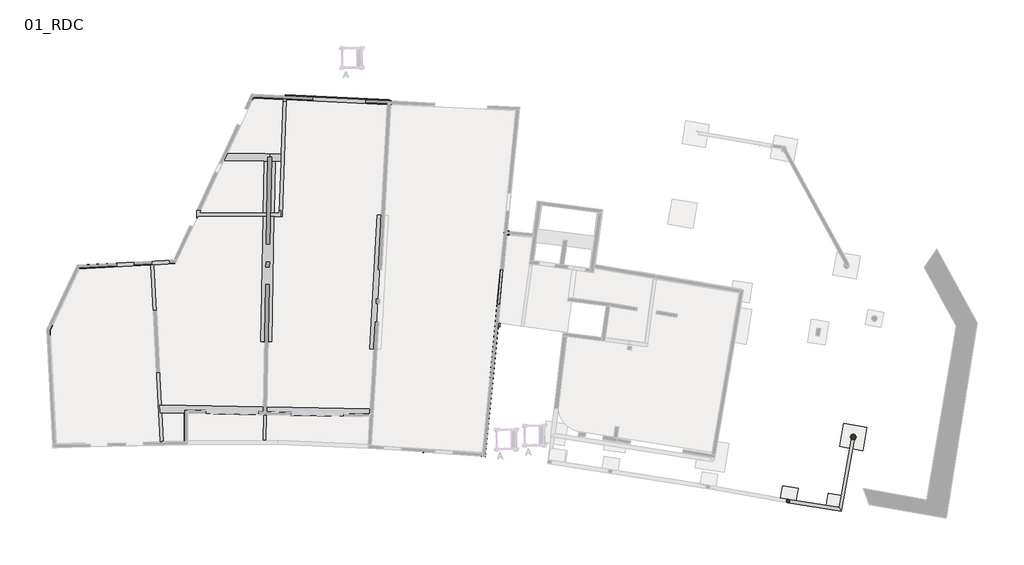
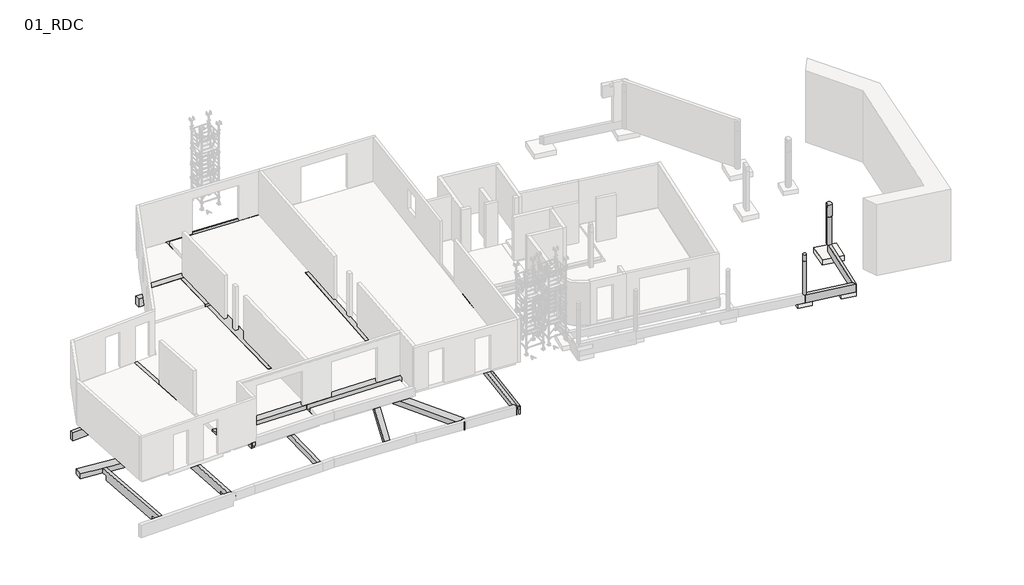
# One storey, part 3 of 5: 29 beams, 3 slabs, 2 columns.
"""IFC4 building model written with IfcOpenShell, lengths in millimetres."""

from ifc_helpers import new_model, si_unit, point, frame, frame_2d, origin, place, context, project, spatial, polyline, circle_curve, trimmed, segment, composite_curve, outline, extrude, faceted_brep, element, save
from ifc_brep_helpers import plane_surface, cylinder_surface, advanced_brep

model = new_model("IFC4")

# Units and contexts
model_context = context("Model", 3, world=origin())
ifc_project = project(units=[si_unit("LENGTHUNIT", "METRE", prefix="MILLI")], contexts=[model_context])

# Site, building, storey
site = spatial("IfcSite", under=ifc_project)
building = spatial("IfcBuilding", under=site)
storey = spatial("IfcBuildingStorey", under=building, Name="01_RDC", Elevation=21740.0)

# Beams
placement = place(None, origin())
element("IfcBeam", 1, ObjectType="Poutre_Rect_2013_JBE : 15x50ht", at=placement, inside=storey, context=model_context, shape_type="SweptSolid", body=[
    extrude(outline(polyline([(23565.5619148, -397.474923), (22890.0878335, -4173.2685621), (22773.6950444, -3972.0980223), (23417.9060773, -371.0598959), (23565.5619148, -397.474923)])), frame((0.0, 0.0, 21440.0), z_axis=(0.0, 0.0, 1.0), x_axis=(1.0, 0.0, 0.0)), (0.0, 0.0, 1.0), 500.0),
])
element("IfcBeam", 2, ObjectType="Poutre_Rect_2013_JBE : 18x50ht", at=placement, inside=storey, context=model_context, shape_type="Brep", body=[
    faceted_brep([(22890.0878335, -4173.2685621, 21940.0), (20150.9156972, -3730.1219038, 21940.0), (20150.9156972, -3730.1219038, 21440.0), (22100.3559727, -4045.5047643, 21440.0), (22890.0878335, -4173.2685621, 21440.0), (20181.0654483, -3552.6591975, 21440.0), (22773.6950444, -3972.0980223, 21440.0), (20181.0654483, -3552.6591975, 21940.0), (22773.6950444, -3972.0980223, 21940.0)], [[[0, 1, 2, 3, 4]], [[4, 3, 2, 5, 6]], [[6, 5, 7, 8]], [[1, 0, 8, 7]], [[1, 7, 5, 2]], [[0, 4, 6, 8]]]),
])
element("IfcBeam", 3, ObjectType="Poutre_Rect_2013_JBE : 18x83ht", at=placement, inside=storey, context=model_context, shape_type="Brep", body=[
    faceted_brep([(5376.3217847, 5293.0233328, 21740.0), (5376.3217847, 5293.0233328, 20910.0), (5375.2455333, 5293.1290939, 20910.0), (5375.2455333, 5293.1290939, 21740.0), (5286.3485343, 4377.4334605, 21740.0), (5107.2113854, 4395.0369225, 21740.0), (5107.2113854, 4395.0369225, 20910.0), (5286.3485343, 4377.4334605, 20910.0), (5286.3485343, 4377.4334605, 21579.7), (5286.3485343, 4377.4334605, 21739.7), (5196.9885367, 5308.6312425, 20910.0), (5375.0721036, 5291.3426556, 20910.0), (5196.9885367, 5308.6312425, 21740.0), (5375.0721036, 5291.3426556, 21740.0)], [[[0, 1, 2, 3]], [[4, 5, 6, 7, 8, 9]], [[1, 0, 4, 9, 8, 7]], [[7, 6, 10, 11, 2, 1]], [[6, 5, 12, 10]], [[5, 4, 0, 3, 13, 12]], [[11, 13, 3, 2]], [[13, 11, 10, 12]]]),
])
element("IfcBeam", 4, ObjectType="Poutre_Rect_2013_JBE : 20x30ht", at=placement, inside=storey, context=model_context, shape_type="SweptSolid", body=[
    extrude(outline(polyline([(-273.0263113, 16790.1300048), (-73.3375718, 16778.9762018), (-123.5296853, 15880.3768741), (-323.2184248, 15891.5306771), (-273.0263113, 16790.1300048)])), frame((0.0, 0.0, 18490.0), z_axis=(0.0, 0.0, 1.0), x_axis=(1.0, 0.0, 0.0)), (0.0, 0.0, 1.0), 300.0),
])
element("IfcBeam", 5, ObjectType="Poutre_Rect_2013_JBE : 20x50ht", at=placement, inside=storey, context=model_context, shape_type="Brep", body=[
    faceted_brep([(-10639.8183823, -564.2557968, 21240.0), (-10639.8183823, -564.2557968, 21510.0), (-10639.8183823, -564.2557968, 21740.0), (-10639.8183823, 838.7515281, 21740.0), (-10639.8183823, 839.5885141, 21740.0), (-10639.8183823, 839.5885141, 21240.0), (-10597.6412094, -563.2655267, 21240.0), (-10439.8183823, 835.5841769, 21240.0), (-10439.8183823, -562.6874618, 21240.0), (-10439.8183823, -562.6874618, 21440.0), (-10439.8183823, 835.5841769, 21740.0), (-10439.8183823, -679.5931043, 21740.0), (-10439.8183823, -679.5931043, 21440.0), (-10597.6412094, -563.2655267, 21740.0), (-10596.0129455, -683.2603677, 21740.0), (-10597.6412094, -563.2655267, 21440.0), (-10596.0129455, -683.2603677, 21440.0)], [[[0, 1, 2, 3, 4, 5]], [[6, 0, 5, 7, 8]], [[9, 8, 7, 10, 11, 12]], [[2, 13, 14, 11, 10, 4, 3]], [[2, 1, 0, 6, 15, 13]], [[14, 13, 15, 16]], [[9, 15, 6, 8]], [[15, 9, 12, 16]], [[11, 14, 16, 12]], [[5, 4, 10, 7]]]),
])
element("IfcBeam", 6, ObjectType="Poutre_Rect_2013_JBE : 20x50ht", at=placement, inside=storey, context=model_context, shape_type="Brep", body=[
    faceted_brep([(-5607.1706897, 10783.9110823, 18790.0), (-5707.1015745, 10787.6283744, 18790.0), (-5707.1015745, 10787.6283744, 18490.0), (-5607.1706897, 10783.9110823, 18490.0), (-5585.4293205, 16748.6384749, 18790.0), (-5585.4293205, 16748.6384749, 18290.0), (-5761.6387681, 12011.6510811, 18290.0), (-5761.6387681, 12011.6510811, 18490.0), (-5792.291285, 11187.6283744, 18490.0), (-5792.291285, 11187.6283744, 18790.0), (-5385.6540881, 16738.8775356, 18290.0), (-5561.7038861, 12006.1819567, 18290.0), (-5385.6540881, 16738.8775356, 18790.0), (-5603.5891048, 10880.1937901, 18790.0), (-5561.7038861, 12006.1819567, 18490.0), (-5699.6618483, 11187.6283744, 18790.0), (-5699.6618483, 10787.6283744, 18790.0), (-5699.6618483, 11187.6283744, 18490.0), (-5699.6618483, 10787.6283744, 18490.0)], [[[0, 1, 2, 3]], [[4, 5, 6, 7, 8, 9]], [[5, 10, 11, 6]], [[12, 13, 0, 3, 14, 11, 10]], [[0, 13, 12, 4, 9, 15, 16, 1]], [[5, 4, 12, 10]], [[16, 15, 17, 18]], [[15, 9, 8, 17]], [[1, 16, 18, 2]], [[14, 7, 6, 11]], [[7, 14, 3, 2, 18, 17, 8]]]),
])
element("IfcBeam", 7, ObjectType="Poutre_Rect_2013_JBE : 20x50ht", at=placement, inside=storey, context=model_context, shape_type="Brep", body=[
    faceted_brep([(-16081.160157, 8400.6382454, 18790.0), (-16081.160157, 8400.6382454, 18290.0), (-16070.4780788, 8200.9237162, 18290.0), (-16070.4780788, 8200.9237162, 18790.0), (-11108.268378, 8666.6219936, 18790.0), (-11097.5862998, 8466.9074643, 18790.0), (-11097.5862998, 8466.9074643, 18290.0), (-11108.268378, 8666.6219936, 18290.0), (-12146.793455, 8410.7887985, 18290.0), (-12346.5079843, 8400.1067203, 18290.0), (-12146.793455, 8410.7887985, 18790.0), (-12346.5079843, 8400.1067203, 18790.0)], [[[0, 1, 2, 3]], [[4, 5, 6, 7]], [[1, 0, 4, 7]], [[2, 1, 7, 6, 8, 9]], [[3, 2, 9, 8, 6, 5, 10, 11]], [[0, 3, 11, 10, 5, 4]]]),
])
element("IfcBeam", 8, ObjectType="Poutre_Rect_2013_JBE : 20x50ht", at=placement, inside=storey, context=model_context, shape_type="Brep", body=[
    faceted_brep([(-12146.793455, 8410.7887985, 18790.0), (-11654.7727411, -788.1407609, 18790.0), (-11654.7727411, -788.1407609, 18490.0), (-11713.5184211, 310.1816414, 18490.0), (-11713.5184211, 310.1816414, 18290.0), (-12146.793455, 8410.7887985, 18290.0), (-12346.5079843, 8400.1067203, 18290.0), (-11913.6059768, 306.4737482, 18290.0), (-11865.4942898, -593.0331355, 18790.0), (-12127.1110398, 4298.2122664, 18790.0), (-12154.1349948, 4803.4581874, 18790.0), (-12346.5079843, 8400.1067203, 18790.0), (-11913.6059768, 306.4737482, 18490.0), (-11865.4942898, -593.0331355, 18490.0)], [[[0, 1, 2, 3, 4, 5]], [[6, 5, 4, 7]], [[8, 9, 10, 11, 6, 7, 12, 13]], [[1, 0, 11, 10, 9, 8]], [[0, 5, 6, 11]], [[1, 8, 13, 2]], [[3, 12, 7, 4]], [[12, 3, 2, 13]]]),
])
element("IfcBeam", 9, ObjectType="Poutre_Rect_2013_JBE : 20x50ht", at=placement, inside=storey, context=model_context, shape_type="Brep", body=[
    faceted_brep([(5381.3688216, 5263.1314356, 18490.0), (5182.3046896, 5282.4568434, 18490.0), (5182.3046896, 5282.4568434, 18790.0), (5222.7341448, 5278.5318987, 18790.0), (5222.7341448, 5278.5318987, 18990.0), (5373.5483598, 5263.8906564, 18990.0), (5373.5483598, 5263.8906564, 18790.0), (5381.3688216, 5263.1314356, 18790.0), (4537.8023407, -1356.3319559, 18990.0), (4537.8023407, -1356.3319559, 18490.0), (4736.8664727, -1375.6573637, 18490.0), (4736.8664727, -1375.6573637, 18990.0), (4633.3710662, -1365.6098935, 18990.0), (4633.3710662, -1365.6098935, 18790.0), (4548.7576161, -1357.3955085, 18790.0), (4548.7576161, -1357.3955085, 18990.0), (5381.109656, 5260.4618637, 18790.0), (5381.109656, 5260.4618637, 18990.0), (4553.0136211, -1199.6459829, 18990.0), (4553.0136211, -1199.6459829, 18790.0), (4563.9952454, -1200.4381247, 18990.0), (4728.1431115, -1372.4421293, 18790.0), (4728.1431115, -1372.4421293, 18990.0), (5286.3588192, 4377.538758, 18990.0), (5286.3588192, 4377.538758, 18790.0), (5136.7059317, 4392.0672572, 18790.0), (4563.9952454, -1200.4381247, 18790.0), (5136.7059317, 4392.0672572, 18990.0), (5373.227545, 5261.5355908, 18790.0), (5373.227545, 5261.5355908, 18990.0)], [[[0, 1, 2, 3, 4, 5, 6, 7]], [[8, 9, 10, 11, 12, 13, 14, 15]], [[11, 10, 0, 7, 16, 17]], [[1, 0, 10, 9]], [[9, 8, 18, 19, 2, 1]], [[18, 8, 15, 20]], [[21, 22, 23, 24]], [[21, 24, 25, 3, 2, 19, 26, 14, 13]], [[24, 23, 27, 25]], [[16, 28, 29, 17]], [[28, 16, 7, 6]], [[29, 28, 6, 5]], [[4, 3, 25, 27]], [[19, 18, 20, 26]], [[14, 26, 20, 15]], [[22, 21, 13, 12]], [[23, 22, 12, 11, 17, 29, 5, 4, 27]]]),
])
element("IfcBeam", 10, ObjectType="Poutre_Rect_2013_JBE : 20x50ht", at=placement, inside=storey, context=model_context, shape_type="SweptSolid", body=[
    extrude(outline(polyline([(-6529.7364262, 4447.333675), (-6329.7705389, 4443.6399032), (-6421.9196946, -544.9432347), (-6526.8167558, -544.9432347), (-6526.8167558, -547.9925495), (-6622.0101401, -547.9925495), (-6529.7364262, 4447.333675)])), frame((0.0, 0.0, 18490.0), z_axis=(0.0, 0.0, 1.0), x_axis=(1.0, 0.0, 0.0)), (0.0, 0.0, 1.0), 300.0),
])
element("IfcBeam", 11, ObjectType="Poutre_Rect_2013_JBE : 20x60ht", at=placement, inside=storey, context=model_context, shape_type="Brep", body=[
    faceted_brep([(-11943.1289793, 4646.2077195, 21740.0), (-12142.8481903, 4635.6135361, 21740.0), (-12142.8481903, 4635.6135361, 21510.0), (-12142.8481903, 4635.6135361, 21140.0), (-11943.1289793, 4646.2077195, 21140.0), (-12142.833884, 8411.0005831, 21140.0), (-12142.833884, 8411.0005831, 21740.0), (-12342.5484326, 8400.3185038, 21140.0), (-12342.5024034, 8399.4507711, 21740.0), (-12342.5484326, 8400.3185038, 21740.0)], [[[0, 1, 2, 3, 4]], [[0, 4, 5, 6]], [[4, 3, 7, 5]], [[7, 3, 2, 1, 8, 9]], [[1, 0, 6, 9, 8]], [[6, 5, 7, 9]]]),
])
element("IfcBeam", 12, ObjectType="Poutre_Rect_2013_JBE : 20x77ht", at=placement, inside=storey, context=model_context, shape_type="Brep", body=[
    faceted_brep([(-16117.5684182, 4699.8381393, 18490.0), (-16117.5684182, 4699.8381393, 18790.0), (-15780.8485835, -684.9610185, 18790.0), (-15780.8485835, -684.9610185, 18490.0), (-15837.0468051, 213.7568628, 18490.0), (-15837.0468051, 213.7568628, 18220.0), (-16098.5940079, 4396.4007466, 18220.0), (-16098.5940079, 4396.4007466, 18490.0), (-16300.25442, 4416.7068823, 18220.0), (-16037.1229394, 208.7273421, 18220.0), (-16319.2282196, 4720.1345079, 18790.0), (-16319.2282196, 4720.1345079, 18490.0), (-16300.25442, 4416.7068823, 18490.0), (-16037.1229394, 208.7273421, 18490.0), (-15980.9454459, -689.6590559, 18490.0), (-15980.9454459, -689.6590559, 18790.0)], [[[0, 1, 2, 3, 4, 5, 6, 7]], [[8, 6, 5, 9]], [[10, 11, 12, 8, 9, 13, 14, 15]], [[1, 0, 11, 10]], [[2, 15, 14, 3]], [[2, 1, 10, 15]], [[7, 12, 11, 0]], [[12, 7, 6, 8]], [[4, 13, 9, 5]], [[13, 4, 3, 14]]]),
])
element("IfcBeam", 13, ObjectType="Poutre_Rect_2013_JBE : 30x40ht", at=placement, inside=storey, context=model_context, shape_type="SweptSolid", body=[
    extrude(outline(polyline([(-6592.5310037, 1227.0657714), (-6593.3520817, 1375.9562699), (-6590.0545346, 1375.9744547), (-6592.5310037, 1227.0657714)])), frame((0.0, 0.0, 21340.0), z_axis=(0.0, 0.0, 1.0), x_axis=(1.0, 0.0, 0.0)), (0.0, 0.0, 1.0), 400.0),
])
element("IfcBeam", 14, ObjectType="Poutre_Rect_2013_JBE : 30x50ht", at=placement, inside=storey, context=model_context, shape_type="Brep", body=[
    faceted_brep([(-163.1899072, 16834.1275896, 21240.0), (-163.1899072, 16834.1275896, 21740.0), (-165.6099002, 16784.1861876, 21740.0), (-165.6099002, 16784.1861876, 21240.0), (-5472.6097384, 17091.4042871, 21240.0), (-5472.6097384, 17091.4042871, 21740.0), (-5474.4685018, 17041.4356898, 21740.0), (-5474.4685018, 17041.4356898, 21240.0)], [[[0, 1, 2, 3]], [[1, 0, 4, 5]], [[1, 5, 6, 2]], [[5, 4, 7, 6]], [[2, 6, 7, 3]], [[4, 0, 3, 7]]]),
    faceted_brep([(-5383.8732082, 16786.7524116, 21240.0), (-5382.0144448, 16836.7210089, 21240.0), (-284.2215717, 16589.6990448, 21240.0), (-287.0100984, 16539.7755007, 21240.0), (-5383.8732082, 16786.7524116, 21510.0), (-287.0100984, 16539.7755007, 21510.0), (-5382.0144448, 16836.7210089, 21510.0), (-284.2215606, 16589.6992445, 21510.0)], [[[0, 1, 2, 3]], [[4, 0, 3, 5]], [[1, 0, 4, 6]], [[4, 5, 7, 6]], [[1, 6, 7, 2]], [[5, 3, 2, 7]]]),
])
element("IfcBeam", 15, ObjectType="Poutre_Rect_2013_JBE : 30x50ht", at=placement, inside=storey, context=model_context, shape_type="Brep", body=[
    faceted_brep([(-7197.3974892, 17127.7564816, 18790.0), (-7197.3974892, 17127.7564816, 18290.0), (-7212.0379064, 16828.1139309, 18290.0), (-7212.0379064, 16828.1139309, 18790.0), (-165.785633, 16784.1946909, 18790.0), (-180.4260502, 16484.5521402, 18790.0), (-180.4260502, 16484.5521402, 18290.0), (-165.785633, 16784.1946909, 18290.0), (-5385.6540881, 16738.8775356, 18290.0), (-5585.4293205, 16748.6384749, 18290.0), (-5385.6540881, 16738.8775356, 18790.0), (-5585.4293205, 16748.6384749, 18790.0)], [[[0, 1, 2, 3]], [[4, 5, 6, 7]], [[1, 0, 4, 7]], [[2, 1, 7, 6, 8, 9]], [[3, 2, 9, 8, 6, 5, 10, 11]], [[0, 3, 11, 10, 5, 4]]]),
])
element("IfcBeam", 16, ObjectType="Poutre_Rect_2013_JBE : 30x50ht", at=placement, inside=storey, context=model_context, shape_type="Brep", body=[
    faceted_brep([(-1004.6119708, 4183.2598212, 18490.0), (-1004.6119708, 4183.2598212, 18790.0), (-867.3943889, 4132.363753, 18790.0), (-867.3943889, 4132.363753, 18990.0), (-796.2003206, 4105.9568005, 18990.0), (-796.2003206, 4105.9568005, 18490.0), (-2492.2595701, -690.1456426, 18790.0), (-2492.2595701, -690.1456426, 18490.0), (-901.8791043, 3597.5757735, 18490.0), (-901.8791043, 3597.5757735, 18790.0), (-2807.1717646, -676.5044913, 18490.0), (-1031.3275086, 4111.2337961, 18490.0), (-1087.2613151, 3954.9907342, 18490.0), (-2807.1717646, -676.5044913, 18790.0), (-1031.3275086, 4111.2337961, 18790.0), (-871.0176728, 4067.1509091, 18990.0), (-1087.2613151, 3954.9907342, 18790.0), (-871.0176728, 4067.1509091, 18790.0)], [[[0, 1, 2, 3, 4, 5]], [[6, 7, 8, 9]], [[10, 11, 0, 5, 12, 8, 7]], [[0, 11, 10, 13, 14, 1]], [[4, 3, 15]], [[10, 7, 6, 13]], [[2, 1, 14, 13, 6, 9, 16, 17]], [[16, 12, 5, 4, 15, 17]], [[12, 16, 9, 8]], [[3, 2, 17, 15]]]),
])
element("IfcBeam", 17, ObjectType="Poutre_Rect_2013_JBE : 30x50ht", at=placement, inside=storey, context=model_context, shape_type="Brep", body=[
    faceted_brep([(-648.228072, 10969.3739265, 18490.0), (-648.228072, 10969.3739265, 18790.0), (-598.3058999, 10966.5852469, 18790.0), (-598.3058999, 10966.5852469, 18490.0), (-720.7337436, 9671.3974523, 18490.0), (-720.7337436, 9671.3974523, 18790.0), (-615.0365712, 10667.0527318, 18490.0), (-415.3478317, 10655.8989288, 18490.0), (-398.6172116, 10955.4305282, 18490.0), (-348.6950395, 10952.6418485, 18490.0), (-421.2007111, 9654.6653743, 18490.0), (-348.6950395, 10952.6418485, 18790.0), (-421.2007111, 9654.6653743, 18790.0), (-488.0212218, 10960.4246848, 18990.0), (-560.139158, 9662.4265515, 18990.0), (-475.5278851, 9657.7001198, 18990.0), (-403.0222135, 10955.676594, 18990.0), (-560.139158, 9662.4265515, 18790.0), (-504.6637613, 10660.8877544, 18790.0), (-615.0365712, 10667.0527318, 18790.0), (-475.5278851, 9657.7001198, 18790.0), (-419.7542084, 10656.1450511, 18790.0), (-415.3478317, 10655.8989288, 18790.0), (-398.6172116, 10955.4305282, 18790.0), (-488.0212218, 10960.4246848, 18790.0), (-403.0222135, 10955.676594, 18790.0)], [[[0, 1, 2, 3]], [[0, 4, 5, 1]], [[4, 0, 3, 6, 7, 8, 9, 10]], [[10, 9, 11, 12]], [[13, 14, 15, 16]], [[1, 5, 17, 18, 19, 2]], [[4, 10, 12, 20, 15, 14, 17, 5]], [[6, 19, 18, 21, 22, 7]], [[19, 6, 3, 2]], [[7, 22, 23, 8]], [[18, 24, 25, 21]], [[9, 8, 23, 11]], [[13, 24, 18, 17, 14]], [[21, 20, 12, 11, 23, 22]], [[20, 21, 25, 16, 15]], [[24, 13, 16, 25]]]),
])
element("IfcBeam", 18, ObjectType="Poutre_Rect_2013_JBE : 30x50ht", at=placement, inside=storey, context=model_context, shape_type="Brep", body=[
    faceted_brep([(-6579.727898, 4448.2571179, 18490.0), (-6529.7364262, 4447.333675, 18490.0), (-6329.7705389, 4443.6399032, 18490.0), (-6279.7790671, 4442.7164602, 18490.0), (-6279.7790671, 4442.7164602, 18790.0), (-6329.7705389, 4443.6399032, 18790.0), (-6529.7364262, 4447.333675, 18790.0), (-6579.727898, 4448.2571179, 18790.0), (-6162.5757933, 10787.6283744, 18490.0), (-6162.5757933, 10787.6283744, 18790.0), (-6462.6269712, 10787.6283744, 18490.0), (-6462.6269712, 10787.6283744, 18790.0)], [[[0, 1, 2, 3, 4, 5, 6, 7]], [[3, 8, 9, 4]], [[3, 2, 1, 0, 10, 8]], [[10, 0, 7, 11]], [[9, 8, 10, 11]], [[7, 6, 5, 4, 9, 11]]]),
])
element("IfcBeam", 19, ObjectType="Poutre_Rect_2013_JBE : 40x50ht", at=placement, inside=storey, context=model_context, shape_type="Brep", body=[
    faceted_brep([(-9966.8767822, 11187.6283744, 18790.0), (-9966.8767822, 11187.6283744, 18290.0), (-9966.8767822, 10787.6283744, 18290.0), (-9966.8767822, 10787.6283744, 18790.0), (-5699.6618483, 11187.6283744, 18790.0), (-5699.6618483, 10787.6283744, 18790.0), (-5699.6618483, 10787.6283744, 18490.0), (-5699.6618483, 11187.6283744, 18490.0), (-5792.291285, 11187.6283744, 18790.0), (-5792.291285, 11187.6283744, 18490.0), (-6777.5806027, 11187.6283744, 18490.0), (-6777.5806027, 11187.6283744, 18290.0), (-6788.522414, 10787.6283744, 18290.0), (-6788.522414, 10787.6283744, 18490.0), (-6462.6269712, 10787.6283744, 18490.0), (-6162.5757933, 10787.6283744, 18490.0), (-5707.1015745, 10787.6283744, 18490.0), (-5707.1015745, 10787.6283744, 18790.0), (-6162.5757933, 10787.6283744, 18790.0), (-6462.6269712, 10787.6283744, 18790.0)], [[[0, 1, 2, 3]], [[4, 5, 6, 7]], [[1, 0, 8, 4, 7, 9, 10, 11]], [[2, 1, 11, 12]], [[3, 2, 12, 13, 14, 15, 16, 6, 5, 17, 18, 19]], [[0, 3, 19, 18, 17, 5, 4, 8]], [[10, 13, 12, 11]], [[13, 10, 9, 7, 6, 16, 15, 14]]]),
])
element("IfcBeam", 20, ObjectType="Poutre_Rect_2013_JBE : 40x50ht", at=placement, inside=storey, context=model_context, shape_type="Brep", body=[
    faceted_brep([(5962.5376718, 10139.68568, 18990.0), (5962.5376718, 10139.68568, 18490.0), (5564.4597446, 10178.8515317, 18490.0), (5564.4597446, 10178.8515317, 18790.0), (5846.8605209, 10151.066854, 18790.0), (5846.8605209, 10151.066854, 18990.0), (5083.6989153, 5292.4449763, 18490.0), (5481.7768424, 5253.2791246, 18490.0), (5481.7768424, 5253.2791246, 18590.0), (5381.9879274, 5263.0970963, 18590.0), (5381.9879274, 5263.0970963, 18790.0), (5373.5533048, 5263.9269569, 18790.0), (5373.5533048, 5263.9269569, 18990.0), (5222.7566161, 5278.7634508, 18990.0), (5222.7566161, 5278.7634508, 18790.0), (5083.6989153, 5292.4449763, 18790.0), (5498.7797362, 5426.0948913, 18990.0), (5498.7797362, 5426.0948913, 18790.0), (5946.0183786, 9971.785183, 18790.0), (5946.0183786, 9971.785183, 18590.0), (5845.9190057, 10141.3686416, 18990.0), (5826.5935818, 9942.3043431, 18990.0), (5822.7161863, 9902.3646752, 18990.0), (5672.8722655, 9916.9117201, 18990.0), (5584.190578, 9003.1047551, 18990.0), (5734.0029019, 8988.5607776, 18990.0), (5375.0721036, 5291.3426556, 18990.0), (5225.3876192, 5305.8742222, 18990.0), (5397.5233486, 5439.8883703, 18990.0), (5822.7161863, 9902.3646752, 18790.0), (5225.3876192, 5305.8742222, 18790.0), (5375.0721036, 5291.3426556, 18790.0), (5481.5808953, 6388.4517276, 18790.0), (5331.8579736, 6402.9818, 18790.0), (5505.1320116, 8174.5280477, 18790.0), (5654.9755338, 8174.5280477, 18790.0), (5734.0029019, 8988.5607776, 18790.0), (5584.190578, 9003.1047551, 18790.0), (5672.8722655, 9916.9117201, 18790.0), (5397.5233486, 5439.8883703, 18790.0), (5399.1237293, 5439.6703611, 18790.0), (5331.8579736, 6402.9818, 18590.0), (5491.1098136, 6387.5269803, 18590.0), (5842.9571071, 9981.9251134, 18590.0), (5665.1320116, 8174.5280477, 18590.0), (5505.1320116, 8174.5280477, 18590.0), (5665.1320116, 8174.5280477, 18790.0), (5842.9571071, 9981.9251134, 18790.0), (5491.1098136, 6387.5269803, 18790.0)], [[[0, 1, 2, 3, 4, 5]], [[6, 7, 8, 9, 10, 11, 12, 13, 14, 15]], [[1, 0, 16, 17, 18, 19, 8, 7]], [[2, 1, 7, 6]], [[2, 6, 15, 3]], [[5, 20, 21, 22, 23, 24, 25, 26, 27, 13, 12, 28, 16, 0]], [[4, 29, 22, 21, 20, 5]], [[29, 4, 3, 15, 14, 30, 31, 32, 33, 34, 35, 36, 37, 38]], [[22, 29, 38, 23]], [[25, 36, 35, 32, 31, 26]], [[36, 25, 24, 37]], [[28, 39, 40, 17, 16]], [[39, 11, 10, 40]], [[11, 39, 28, 12]], [[26, 31, 30, 27]], [[38, 37, 24, 23]], [[14, 13, 27, 30]], [[41, 42, 9, 8, 19, 43, 44, 45]], [[46, 47, 18, 17, 40, 48, 32, 35]], [[42, 48, 40, 10, 9]], [[42, 41, 33, 32, 48]], [[41, 45, 34, 33]], [[45, 44, 46, 35, 34]], [[44, 43, 47, 46]], [[47, 43, 19, 18]]]),
])
element("IfcBeam", 21, ObjectType="Poutre_Rect_2013_JBE : 40x70ht", at=placement, inside=storey, context=model_context, shape_type="Brep", body=[
    faceted_brep([(-6607.624817, 755.9310659, 21740.0), (-6599.7964257, 1155.854454, 21740.0), (-6599.7964257, 1155.854454, 21040.0), (-6607.624817, 755.9310659, 21040.0), (-6600.9592618, 755.8005895, 21040.0), (-6600.9592618, 755.8005895, 21440.0), (-6400.9974463, 751.8863915, 21440.0), (-6400.9974463, 751.8863915, 21040.0), (-1074.5715523, 647.6230562, 21040.0), (-1074.5715523, 647.6230562, 21740.0), (-6395.0633265, 1073.1356687, 21040.0), (-6393.7547232, 1151.8212438, 21040.0), (-1052.2474648, 1047.262695, 21040.0), (-1052.2474648, 1047.262695, 21740.0), (-6393.7547232, 1151.8212438, 21740.0), (-6393.4570934, 1151.8154178, 21740.0), (-1152.2939669, 1049.221078, 21740.0), (-6395.0633265, 1073.1356687, 21740.0), (-6595.0326132, 1076.6454066, 21740.0), (-6593.7172832, 1155.7354564, 21740.0), (-6395.0633265, 1073.1356687, 21440.0), (-6595.0326132, 1076.6454066, 21440.0), (-6595.0326132, 1076.6454066, 21040.0), (-6593.7172832, 1155.7354564, 21040.0)], [[[0, 1, 2, 3]], [[0, 3, 4, 5, 6, 7, 8, 9]], [[7, 10, 11, 12, 8]], [[13, 12, 11, 14, 15, 16]], [[1, 0, 9, 13, 16, 15, 14, 17, 18, 19]], [[6, 20, 10, 7]], [[20, 6, 5, 21]], [[9, 8, 12, 13]], [[20, 17, 14, 11, 10]], [[17, 20, 21, 18]], [[21, 5, 4, 22]], [[18, 21, 22, 23, 19]], [[3, 2, 23, 22, 4]], [[2, 1, 19, 23]]]),
])
element("IfcBeam", 22, ObjectType="Poutre_Rect_2013_JBE : 40x70ht", at=placement, inside=storey, context=model_context, shape_type="Brep", body=[
    faceted_brep([(-6261.3842204, 13686.5973949, 21740.0), (-6261.3842204, 13686.5973949, 21040.0), (-6253.9993933, 14086.5292195, 21040.0), (-6253.9993933, 14086.5292195, 21740.0), (-6567.7757638, 13692.2549806, 21740.0), (-6567.7757638, 13692.2549806, 21510.0), (-6569.4854324, 13692.28655, 21510.0), (-8569.8513591, 13729.2237364, 21510.0), (-8569.8513591, 13729.2237364, 21040.0), (-6569.4854324, 13692.28655, 21040.0), (-8383.7222562, 14125.8550096, 21040.0), (-8383.7222562, 14125.8550096, 21740.0), (-8568.9522219, 13731.1397503, 21740.0), (-6567.7631278, 13692.9165437, 21740.0), (-8568.9522219, 13731.1397503, 21510.0), (-6567.7631278, 13692.9165437, 21510.0)], [[[0, 1, 2, 3]], [[1, 0, 4, 5, 6, 7, 8, 9]], [[2, 1, 9, 8, 10]], [[3, 2, 10, 11]], [[0, 3, 11, 12, 13, 4]], [[10, 8, 7, 14, 12, 11]], [[15, 14, 7, 6, 5]], [[14, 15, 13, 12]], [[13, 15, 5, 4]]]),
])
element("IfcBeam", 23, ObjectType="Poutre_Rect_2013_JBE : 40x70ht", at=placement, inside=storey, context=model_context, shape_type="Brep", body=[
    faceted_brep([(-6500.9252026, 756.7208952, 21740.0), (-10439.8183823, 835.5841769, 21740.0), (-10639.8183823, 839.5885141, 21740.0), (-11842.6234206, 863.6706987, 21740.0), (-11842.6234206, 863.6706987, 21040.0), (-6600.9052852, 758.722665, 21040.0), (-6600.9052852, 758.722665, 21440.0), (-6500.9252026, 756.7208952, 21440.0), (-11863.8683923, 1264.1762244, 21040.0), (-6593.6686799, 1158.6579415, 21040.0), (-6595.0326132, 1076.6454066, 21040.0), (-11863.8683923, 1264.1762244, 21740.0), (-6593.6686799, 1158.6579415, 21740.0), (-6495.0479699, 1074.8905378, 21740.0), (-6595.0326132, 1076.6454066, 21740.0), (-6495.0479699, 1074.8905378, 21440.0), (-6595.0326132, 1076.6454068, 21440.0)], [[[0, 1, 2, 3, 4, 5, 6, 7]], [[4, 8, 9, 10, 5]], [[8, 11, 12, 9]], [[3, 2, 1, 0, 13, 14, 12, 11]], [[3, 11, 8, 4]], [[13, 0, 7, 15]], [[6, 5, 10, 16]], [[14, 16, 10, 9, 12]], [[16, 14, 13, 15]], [[6, 16, 15, 7]]]),
])
element("IfcBeam", 24, ObjectType="Poutre_Rect_2013_JBE : 40x70ht", at=placement, inside=storey, context=model_context, shape_type="Brep", body=[
    faceted_brep([(-6261.3842204, 13686.5973949, 21740.0), (-6253.9993933, 14086.5292195, 21740.0), (-6253.9993933, 14086.5292195, 21040.0), (-6261.3842204, 13686.5973949, 21040.0), (-5969.5876955, 13681.2093094, 21040.0), (-5699.7188548, 13676.2261233, 21040.0), (-5699.7188548, 13676.2261233, 21510.0), (-5699.7188548, 13676.2261233, 21740.0), (-5961.8423813, 13681.0662906, 21740.0), (-5969.5876955, 13681.2093094, 21740.0), (-5684.847081, 14076.0196999, 21040.0), (-5684.847081, 14076.0196999, 21740.0)], [[[0, 1, 2, 3]], [[0, 3, 4, 5, 6, 7, 8, 9]], [[3, 2, 10, 5, 4]], [[2, 1, 11, 10]], [[1, 0, 9, 8, 7, 11]], [[5, 10, 11, 7, 6]]]),
])
element("IfcBeam", 25, ObjectType="Poutre_Rect_2013_JBE : 40x70ht", at=placement, inside=storey, context=model_context, shape_type="Brep", body=[
    faceted_brep([(-8400.4029232, 14090.3093904, 21040.0), (-8400.4029232, 14090.3093904, 21740.0), (-6452.7049089, 14090.3093904, 21740.0), (-6452.7049089, 14090.3093904, 21510.0), (-5684.315524, 14090.3093904, 21510.0), (-5684.315524, 14090.3093904, 21040.0), (-8588.1128852, 13690.3093904, 21040.0), (-5699.1949766, 13690.3093904, 21040.0), (-6462.4106121, 13690.3093904, 21040.0), (-6569.4854324, 13692.28655, 21040.0), (-6569.5219411, 13690.3093904, 21040.0), (-5699.1949766, 13690.3093904, 21740.0), (-6462.4106121, 13690.3093904, 21740.0), (-8568.9522219, 13731.1397503, 21740.0), (-6567.7631278, 13692.9165437, 21740.0), (-6567.7757638, 13692.2549806, 21740.0), (-5684.8413105, 14076.1748245, 21740.0), (-8588.1128852, 13690.3093904, 21510.0), (-8568.9522219, 13731.1397503, 21510.0), (-5684.8413105, 14076.1748245, 21510.0), (-6567.7757638, 13692.2549806, 21510.0), (-6569.4854324, 13692.28655, 21510.0), (-6569.5219411, 13690.3093904, 21510.0), (-6567.7631278, 13692.9165437, 21510.0)], [[[0, 1, 2, 3, 4, 5]], [[6, 0, 5, 7, 8, 9, 10]], [[7, 11, 12, 8]], [[2, 1, 13, 14, 15, 12, 11, 16]], [[1, 0, 6, 17, 18, 13]], [[7, 5, 4, 19, 16, 11]], [[4, 3, 19]], [[19, 3, 2, 16]], [[9, 8, 12, 15, 20, 21]], [[10, 9, 21, 22]], [[6, 10, 22, 17]], [[23, 18, 17, 22, 21, 20]], [[18, 23, 14, 13]], [[14, 23, 20, 15]]]),
])
element("IfcBeam", 26, ObjectType="Poutre_Rect_2013_JBE : 50x30ht", at=placement, inside=storey, context=model_context, shape_type="Brep", body=[
    faceted_brep([(-17512.5938247, 5342.7687227, 18790.0), (-17512.5938247, 5342.7687227, 18490.0), (-17562.6641523, 4845.2820773, 18490.0), (-17562.6641523, 4845.2820773, 18790.0), (-12154.1349948, 4803.4581874, 18790.0), (-12154.1349948, 4803.4581874, 18490.0), (-12127.1110398, 4298.2122664, 18490.0), (-16117.5684182, 4699.8381393, 18490.0), (-16319.2282196, 4720.1345079, 18490.0), (-12127.1110398, 4298.2122664, 18790.0), (-16117.5684182, 4699.8381393, 18790.0), (-16319.2282196, 4720.1345079, 18790.0)], [[[0, 1, 2, 3]], [[1, 0, 4, 5]], [[2, 1, 5, 6, 7, 8]], [[3, 2, 8, 7, 6, 9, 10, 11]], [[0, 3, 11, 10, 9, 4]], [[5, 4, 9, 6]]]),
])
element("IfcBeam", 27, ObjectType="Poutre_Rect_2013_JBE : 50x50ht", at=placement, inside=storey, context=model_context, shape_type="Brep", body=[
    faceted_brep([(-643.4124382, 4185.204058, 18490.0), (-729.2137558, 4140.7010581, 18490.0), (-796.2003206, 4105.9568005, 18490.0), (-1087.2613151, 3954.9907342, 18490.0), (-1087.2613151, 3954.9907342, 18790.0), (-871.0176728, 4067.1509091, 18790.0), (-871.0176728, 4067.1509091, 18990.0), (-796.2003206, 4105.9568005, 18990.0), (-782.8980776, 4112.8563416, 18990.0), (-782.8980776, 4112.8563416, 18790.0), (-729.2137558, 4140.7010581, 18790.0), (-643.4124382, 4185.204058, 18790.0), (1872.4077845, -665.2709794, 18490.0), (1872.4077845, -665.2709794, 18790.0), (1719.4508474, -654.2441217, 18490.0), (1697.8967052, -953.2282625, 18490.0), (1449.2103947, -935.300154, 18490.0), (-901.8791043, 3597.5757735, 18490.0), (1449.2103947, -935.300154, 18790.0), (-820.5359386, 3440.7470021, 18790.0), (-820.5359386, 3440.7470021, 18990.0), (-897.5693512, 3589.2666148, 18990.0), (-897.5693512, 3589.2666148, 18790.0), (-901.8791043, 3597.5757735, 18790.0), (1719.4508474, -654.2441217, 18790.0), (1697.8967052, -953.2282625, 18790.0)], [[[0, 1, 2, 3, 4, 5, 6, 7, 8, 9, 10, 11]], [[12, 0, 11, 13]], [[3, 2, 1, 0, 12, 14, 15, 16, 17]], [[4, 3, 17, 16, 18, 19, 20, 21, 22, 23]], [[5, 4, 23, 22]], [[14, 12, 13, 24]], [[15, 14, 24, 25]], [[16, 15, 25, 18]], [[5, 22, 21, 6]], [[6, 21, 20, 8, 7]], [[9, 19, 18, 25, 24, 13, 11, 10]], [[19, 9, 8, 20]]]),
    faceted_brep([(1574.004708, -1175.902283, 18990.0), (1574.004708, -1175.902283, 18490.0), (1626.6253639, -1148.6092634, 18490.0), (1626.6253639, -1148.6092634, 18990.0), (1557.2545934, -1143.6082374, 18990.0), (1557.2545934, -1143.6082374, 18490.0)], [[[0, 1, 2, 3]], [[4, 0, 3]], [[3, 2, 5, 4]], [[2, 1, 5]], [[1, 0, 4, 5]]]),
])
element("IfcBeam", 28, ObjectType="Poutre_Rect_2013_JBE : 60x70ht", at=placement, inside=storey, context=model_context, shape_type="Brep", body=[
    faceted_brep([(-5969.5876955, 13681.2093094, 21740.0), (-5969.5876955, 13681.2093094, 21040.0), (-6261.3842204, 13686.5973949, 21040.0), (-6462.4106121, 13690.3093904, 21040.0), (-6569.4854324, 13692.28655, 21040.0), (-6569.4854324, 13692.28655, 21510.0), (-6569.4854324, 13692.28655, 21740.0), (-6567.7757638, 13692.2549806, 21740.0), (-6462.4106121, 13690.3093904, 21740.0), (-6261.3842204, 13686.5973949, 21740.0), (-6017.4787245, 11087.6283744, 21740.0), (-6017.4787245, 11087.6283744, 21040.0), (-6617.581005, 11087.6283744, 21040.0), (-6617.581005, 11087.6283744, 21740.0)], [[[0, 1, 2, 3, 4, 5, 6, 7, 8, 9]], [[1, 0, 10, 11]], [[4, 3, 2, 1, 11, 12]], [[6, 5, 4, 12, 13]], [[0, 9, 8, 7, 6, 13, 10]], [[11, 10, 13, 12]]]),
    faceted_brep([(-6139.2108687, 4495.1166837, 21040.0), (-6139.2108687, 4495.1166837, 21740.0), (-6338.0920029, 4498.7890666, 21740.0), (-6338.0920029, 4498.7890666, 21040.0), (-6021.1717674, 10887.6283744, 21740.0), (-6021.1717674, 10887.6283744, 21040.0), (-6621.274048, 10887.6283744, 21040.0), (-6621.274048, 10887.6283744, 21740.0), (-6333.6847266, 4763.7960936, 21040.0), (-6533.657074, 4767.1217918, 21040.0), (-6538.0582514, 4502.4814863, 21040.0), (-6739.1086056, 4506.1939243, 21040.0), (-6739.1086056, 4506.1939243, 21740.0), (-6538.0582514, 4502.4814863, 21740.0), (-6533.657074, 4767.1217918, 21740.0), (-6333.6847266, 4763.7960936, 21740.0)], [[[0, 1, 2, 3]], [[4, 5, 6, 7]], [[1, 0, 5, 4]], [[5, 0, 3, 8, 9, 10, 11, 6]], [[11, 12, 7, 6]], [[1, 4, 7, 12, 13, 14, 15, 2]], [[15, 8, 3, 2]], [[9, 14, 13, 10]], [[8, 15, 14, 9]], [[12, 11, 10, 13]]]),
])
element("IfcBeam", 29, ObjectType="Poutre_Rect_2013_JBE : 60x70ht", at=placement, inside=storey, context=model_context, shape_type="Brep", body=[
    faceted_brep([(-198.9271583, 10944.2771111, 21040.0), (-398.6171318, 10955.431956, 21040.0), (-398.6171318, 10955.431956, 21510.0), (-398.6171318, 10955.431956, 21540.0), (-198.9271583, 10944.2771111, 21540.0), (-198.9271583, 10944.2771111, 21510.0), (-582.093611, 4084.9707708, 21040.0), (-582.093611, 4084.9707708, 21510.0), (-582.093611, 4084.9707708, 21540.0), (-781.7804356, 4096.1254399, 21540.0), (-781.7804356, 4096.1254399, 21040.0), (-765.0676382, 4395.3133159, 21040.0), (-964.7563265, 4406.4680346, 21040.0), (-981.4691209, 4107.2802129, 21040.0), (-1181.159667, 4118.4350898, 21040.0), (-797.9932142, 10977.7414301, 21040.0), (-598.3058171, 10966.586729, 21040.0), (-615.0365712, 10667.0527318, 21040.0), (-415.3478317, 10655.8989288, 21040.0), (-797.9932142, 10977.7414301, 21740.0), (-1181.159667, 4118.4350898, 21740.0), (-981.4691209, 4107.2802129, 21740.0), (-964.7563265, 4406.4680346, 21740.0), (-852.616712, 4400.2038548, 21740.0), (-504.8929369, 10660.9005552, 21740.0), (-615.0365712, 10667.0527318, 21740.0), (-598.3058171, 10966.586729, 21740.0), (-415.3478317, 10655.8989288, 21540.0), (-504.8929369, 10660.9005552, 21540.0), (-765.0676382, 4395.3133159, 21540.0), (-852.616712, 4400.2038548, 21540.0)], [[[0, 1, 2, 3, 4, 5]], [[6, 7, 8, 9, 10]], [[6, 0, 5, 4, 8, 7]], [[0, 6, 10, 11, 12, 13, 14, 15, 16, 17, 18, 1]], [[19, 15, 14, 20]], [[19, 20, 21, 22, 23, 24, 25, 26]], [[1, 18, 27, 3, 2]], [[25, 17, 16, 26]], [[17, 25, 24, 28, 27, 18]], [[15, 19, 26, 16]], [[11, 10, 9, 29]], [[12, 22, 21, 13]], [[22, 12, 11, 29, 30, 23]], [[20, 14, 13, 21]], [[28, 30, 29, 9, 8, 4, 3, 27]], [[30, 28, 24, 23]]]),
])

# Columns
element("IfcColumn", 30, ObjectType="Pot_Circ_2013_JBE : diametre 20", at=placement, inside=storey, context=model_context, shape_type="SweptSolid", body=[
    extrude(outline(composite_curve([segment(trimmed(circle_curve(frame_2d((20165.9905727, -3641.3905507)), 100.0), [point((20065.9905727, -3641.3905507))], [point((20265.9905727, -3641.3905507))], False, "CARTESIAN"), True, "CONTINUOUS"), segment(trimmed(circle_curve(frame_2d((20165.9905727, -3641.3905507)), 100.0), [point((20265.9905727, -3641.3905507))], [point((20065.9905727, -3641.3905507))], False, "CARTESIAN"), True, "CONTINUOUS")], self_intersect=False)), frame((0.0, 0.0, 24040.0), z_axis=(0.0, 0.0, 1.0), x_axis=(1.0, 0.0, 0.0)), (0.0, 0.0, 1.0), 400.0),
    extrude(outline(composite_curve([segment(trimmed(circle_curve(frame_2d((20165.9905727, -3641.3905507)), 100.0), [point((20065.9905727, -3641.3905507))], [point((20265.9905727, -3641.3905507))], False, "CARTESIAN"), True, "CONTINUOUS"), segment(trimmed(circle_curve(frame_2d((20165.9905727, -3641.3905507)), 100.0), [point((20265.9905727, -3641.3905507))], [point((20065.9905727, -3641.3905507))], False, "CARTESIAN"), True, "CONTINUOUS")], self_intersect=False)), frame((0.0, 0.0, 21940.0), z_axis=(0.0, 0.0, 1.0), x_axis=(1.0, 0.0, 0.0)), (0.0, 0.0, 1.0), 2100.0),
])
element("IfcColumn", 31, ObjectType="Pot_Circ_2013_JBE : 300", at=placement, inside=storey, context=model_context, shape_type="SolidModel", body=[
    advanced_brep(
    [(23374.2516207, -470.3494991, 24440.0), (23641.733996, -377.087012, 24440.0), (23413.8719324, -248.8782017, 24440.0), (23397.631885, -339.6575067, 24440.0), (23397.5944422, -339.866806, 24440.0), (23341.733996, -377.087012, 23690.0), (23641.733996, -377.087012, 23690.0), (23374.2516207, -470.3494991, 24240.0), (23341.733996, -377.087012, 24240.0), (23413.8719324, -248.8782017, 24240.0)],
    [
        (0, 1, circle_curve(frame((23491.733996, -377.087012, 24440.0), z_axis=(0.0, 0.0, 1.0), x_axis=(1.0, 0.0, 0.0)), 150.0)),
        (1, 2, circle_curve(frame((23491.733996, -377.087012, 24440.0), z_axis=(0.0, 0.0, 1.0), x_axis=(1.0, 0.0, 0.0)), 150.0)),
        (2, 3),
        (3, 4),
        (4, 0),
        (5, 6, circle_curve(frame((23491.733996, -377.087012, 23690.0), z_axis=(0.0, 0.0, 1.0), x_axis=(1.0, 0.0, 0.0)), 150.0)),
        (6, 1),
        (0, 7),
        (7, 8, circle_curve(frame((23491.733996, -377.087012, 24240.0), z_axis=(0.0, 0.0, -1.0), x_axis=(1.0, 0.0, 0.0)), 150.0)),
        (8, 5),
        (6, 5, circle_curve(frame((23491.733996, -377.087012, 23690.0), z_axis=(0.0, 0.0, 1.0), x_axis=(1.0, 0.0, 0.0)), 150.0)),
        (8, 9, circle_curve(frame((23491.733996, -377.087012, 24240.0), z_axis=(0.0, 0.0, -1.0), x_axis=(1.0, 0.0, 0.0)), 150.0)),
        (9, 2),
        (7, 9),
    ],
    [
        plane_surface(frame((23641.733996, -377.087012, 24440.0), z_axis=(0.0, 0.0, 1.0), x_axis=(0.0, 1.0, 0.0))),
        cylinder_surface(frame((23491.733996, -377.087012, 23690.0), z_axis=(0.0, 0.0, 1.0), x_axis=(1.0, 0.0, 0.0)), 150.0),
        plane_surface(frame((23641.733996, -377.087012, 23690.0), z_axis=(0.0, 0.0, -1.0), x_axis=(0.0, -1.0, 0.0))),
        plane_surface(frame((23126.5284547, 8207.4692266, 24240.0), z_axis=(0.0, 0.0, 1.0000000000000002), x_axis=(0.4720815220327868, -0.8815548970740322, 0.0))),
        plane_surface(frame((24475.8987248, 5687.6841597, 24240.0), z_axis=(-0.9843722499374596, 0.1761001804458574, 0.0), x_axis=(0.0, 0.0, 1.0))),
    ],
    [
        (0, [[1, 2, 3, 4, 5]]),
        (1, [[6, 7, -1, 8, 9, 10]]),
        (1, [[-7, 11, -10, 12, 13, -2]]),
        (2, [[-6, -11]]),
        (3, [[14, -12, -9]]),
        (4, [[-14, -8, -5, -4, -3, -13]]),
    ],
),
    extrude(outline(composite_curve([segment(trimmed(circle_curve(frame_2d((23491.733996, -377.087012)), 150.0), [point((23341.733996, -377.087012))], [point((23641.733996, -377.087012))], False, "CARTESIAN"), True, "CONTINUOUS"), segment(trimmed(circle_curve(frame_2d((23491.733996, -377.087012)), 150.0), [point((23641.733996, -377.087012))], [point((23341.733996, -377.087012))], False, "CARTESIAN"), True, "CONTINUOUS")], self_intersect=False)), frame((0.0, 0.0, 21940.0), z_axis=(0.0, 0.0, 1.0), x_axis=(1.0, 0.0, 0.0)), (0.0, 0.0, 1.0), 1750.0),
])

# Slabs
element("IfcSlab", 32, ObjectType="Base rectangulaire : 120x120x30 ht", at=placement, inside=storey, context=model_context, shape_type="SweptSolid", body=[
    extrude(outline(polyline([(24187.3277494, 108.8649714), (23977.6859795, -1072.6807654), (22796.1402426, -863.0389955), (23005.7820125, 318.5067413), (24187.3277494, 108.8649714)])), frame((0.0, 0.0, 21140.0), z_axis=(0.0, 0.0, 1.0), x_axis=(1.0, 0.0, 0.0)), (0.0, 0.0, 1.0), 300.0),
    extrude(outline(polyline([(24187.3277494, 108.8649714), (23977.6859795, -1072.6807654), (22796.1402426, -863.0389955), (23005.7820125, 318.5067413), (24187.3277494, 108.8649714)])), frame((0.0, 0.0, 21140.0), z_axis=(0.0, 0.0, 1.0), x_axis=(1.0, 0.0, 0.0)), (0.0, 0.0, 1.0), 300.0),
])
element("IfcSlab", 33, ObjectType="Base rectangulaire : 80x80x25 cm", at=placement, inside=storey, context=model_context, shape_type="SweptSolid", body=[
    extrude(outline(polyline([(20681.0127818, -3001.7984014), (20540.7954968, -3789.4144963), (19753.1794019, -3649.1972113), (19893.3966869, -2861.5811164), (20681.0127818, -3001.7984014)])), frame((0.0, 0.0, 21190.0), z_axis=(0.0, 0.0, 1.0), x_axis=(1.0, 0.0, 0.0)), (0.0, 0.0, 1.0), 250.0),
    extrude(outline(polyline([(20681.0127818, -3001.7984014), (20540.7954968, -3789.4144963), (19753.1794019, -3649.1972113), (19893.3966869, -2861.5811164), (20681.0127818, -3001.7984014)])), frame((0.0, 0.0, 21190.0), z_axis=(0.0, 0.0, 1.0), x_axis=(1.0, 0.0, 0.0)), (0.0, 0.0, 1.0), 250.0),
])
element("IfcSlab", 34, ObjectType="Base rectangulaire : 80x80x25 cm", at=placement, inside=storey, context=model_context, shape_type="SweptSolid", body=[
    extrude(outline(polyline([(23017.8516313, -3383.5367013), (22890.0878335, -4173.2685621), (22100.3559727, -4045.5047643), (22228.1197705, -3255.7729035), (23017.8516313, -3383.5367013)])), frame((0.0, 0.0, 21190.0), z_axis=(0.0, 0.0, 1.0), x_axis=(1.0, 0.0, 0.0)), (0.0, 0.0, 1.0), 250.0),
    extrude(outline(polyline([(23017.8516313, -3383.5367013), (22890.0878335, -4173.2685621), (22100.3559727, -4045.5047643), (22228.1197705, -3255.7729035), (23017.8516313, -3383.5367013)])), frame((0.0, 0.0, 21190.0), z_axis=(0.0, 0.0, 1.0), x_axis=(1.0, 0.0, 0.0)), (0.0, 0.0, 1.0), 250.0),
])

save(model, "model.ifc")
